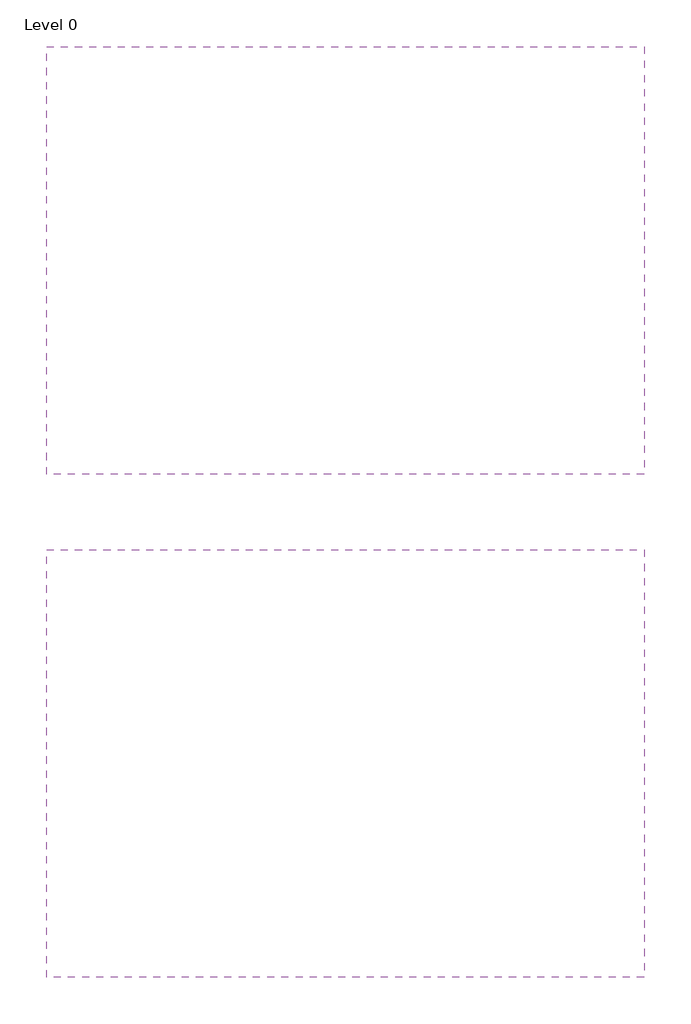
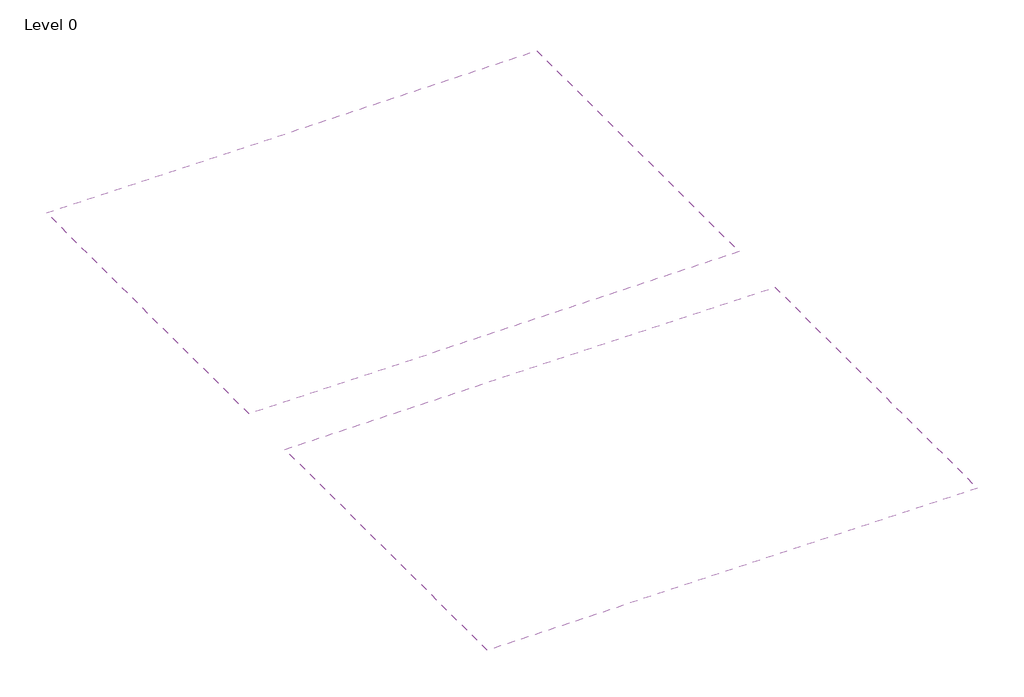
# One storey: 2 coverings.
"""IFC4 building model written with IfcOpenShell, lengths in millimetres."""

from ifc_helpers import new_model, si_unit, frame, origin, place, context, project, spatial, polyline, outline, extrude, element, save

model = new_model("IFC4")

# Units and contexts
model_context = context("Model", 3, world=origin())
ifc_project = project(units=[si_unit("LENGTHUNIT", "METRE", prefix="MILLI")], contexts=[model_context])

# Site, building, storey
site = spatial("IfcSite", under=ifc_project)
building = spatial("IfcBuilding", under=site)
storey = spatial("IfcBuildingStorey", under=building, Name="Level 0", Elevation=0.0)

# Coverings
placement = place(None, origin())
element("IfcCovering", 1, ObjectType="Shift_Large", at=placement, inside=storey, context=model_context, shape_type="SweptSolid", body=[
    extrude(outline(polyline([(7043.8485267, -82676.5925868), (7043.8485267, -89476.5925868), (-2456.1514733, -89476.5925868), (-2456.1514733, -82676.5925868), (7043.8485267, -82676.5925868)])), frame((0.0, 0.0, 3500.0), z_axis=(0.0, 0.0, 1.0), x_axis=(1.0, 0.0, 0.0)), (0.0, 0.0, 1.0), 83.1),
])
element("IfcCovering", 2, ObjectType="Shift_Small", at=placement, inside=storey, context=model_context, shape_type="SweptSolid", body=[
    extrude(outline(polyline([(7043.8485267, -74676.5925868), (7043.8485267, -81476.5925868), (-2456.1514733, -81476.5925868), (-2456.1514733, -74676.5925868), (7043.8485267, -74676.5925868)])), frame((0.0, 0.0, 3500.0), z_axis=(0.0, 0.0, 1.0), x_axis=(1.0, 0.0, 0.0)), (0.0, 0.0, 1.0), 83.1),
])

save(model, "model.ifc")
